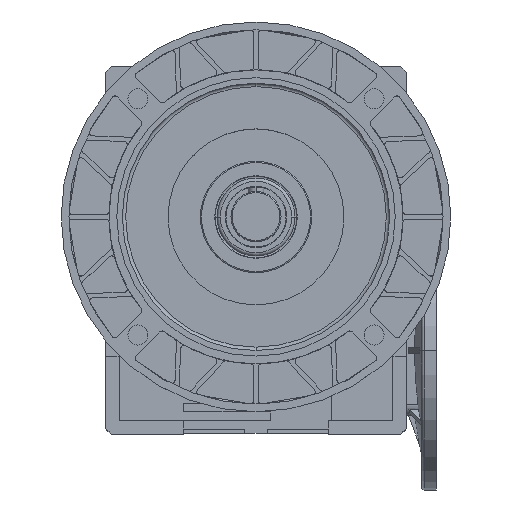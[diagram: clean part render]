
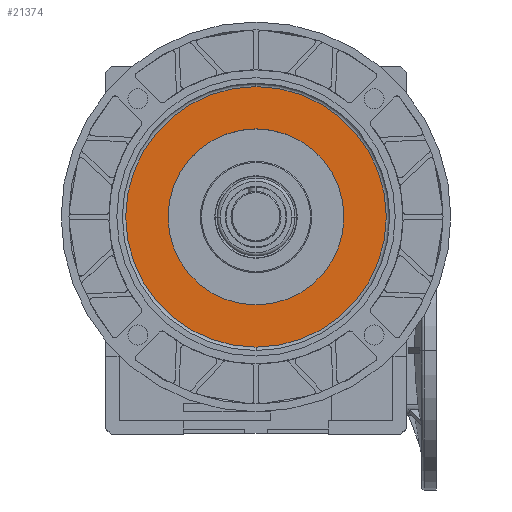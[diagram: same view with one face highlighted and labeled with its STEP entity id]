
A CAD part, top view. The second image highlights one B-rep face of the part: STEP entity #21374.
In plain terms, the highlighted planar face has unit normal (0, 0, 1).
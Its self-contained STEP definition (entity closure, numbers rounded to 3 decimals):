
#18938 = VERTEX_POINT ( 'NONE', #47294 ) ;
#18946 = VERTEX_POINT ( 'NONE', #47338 ) ;
#18950 = EDGE_CURVE ( 'NONE', #18946, #18951, #47336, .T. ) ;
#18951 = VERTEX_POINT ( 'NONE', #47325 ) ;
#18968 = EDGE_CURVE ( 'NONE', #18938, #18970, #47351, .T. ) ;
#18970 = VERTEX_POINT ( 'NONE', #47393 ) ;
#21373 = EDGE_CURVE ( 'NONE', #18951, #18946, #37686, .T. ) ;
#21374 = ADVANCED_FACE ( 'NONE', ( #37743, #37742 ), #37741, .T. ) ;
#21375 = EDGE_LOOP ( 'NONE', ( #21376, #21378 ) ) ;
#21376 = ORIENTED_EDGE ( 'NONE', *, *, #21377, .T. ) ;
#21377 = EDGE_CURVE ( 'NONE', #18970, #18938, #37735, .T. ) ;
#21378 = ORIENTED_EDGE ( 'NONE', *, *, #18968, .T. ) ;
#21379 = EDGE_LOOP ( 'NONE', ( #21380, #21381 ) ) ;
#21380 = ORIENTED_EDGE ( 'NONE', *, *, #21373, .F. ) ;
#21381 = ORIENTED_EDGE ( 'NONE', *, *, #18950, .F. ) ;
#37685 = CARTESIAN_POINT ( 'NONE',  ( -13.506, 0., 150. ) ) ;
#37686 = CIRCLE ( 'NONE', #37746, 117. ) ;
#37732 = DIRECTION ( 'NONE',  ( 0., 1., 0. ) ) ;
#37733 = DIRECTION ( 'NONE',  ( 0., 0., -1. ) ) ;
#37734 = AXIS2_PLACEMENT_3D ( 'NONE', #37739, #37733, #37732 ) ;
#37735 = CIRCLE ( 'NONE', #37734, 79. ) ;
#37736 = DIRECTION ( 'NONE',  ( 0., -1., 0. ) ) ;
#37737 = DIRECTION ( 'NONE',  ( 0., 0., 1. ) ) ;
#37738 = CARTESIAN_POINT ( 'NONE',  ( -13.506, 117., 150. ) ) ;
#37739 = CARTESIAN_POINT ( 'NONE',  ( -13.506, 0., 150. ) ) ;
#37740 = AXIS2_PLACEMENT_3D ( 'NONE', #37738, #37737, #37736 ) ;
#37741 = PLANE ( 'NONE',  #37740 ) ;
#37742 = FACE_OUTER_BOUND ( 'NONE', #21379, .T. ) ;
#37743 = FACE_BOUND ( 'NONE', #21375, .T. ) ;
#37744 = DIRECTION ( 'NONE',  ( 0., 1., 0. ) ) ;
#37745 = DIRECTION ( 'NONE',  ( 0., 0., -1. ) ) ;
#37746 = AXIS2_PLACEMENT_3D ( 'NONE', #37685, #37745, #37744 ) ;
#47294 = CARTESIAN_POINT ( 'NONE',  ( -13.506, -79., 150. ) ) ;
#47325 = CARTESIAN_POINT ( 'NONE',  ( -13.506, 117., 150. ) ) ;
#47326 = DIRECTION ( 'NONE',  ( 0., 1., 0. ) ) ;
#47327 = DIRECTION ( 'NONE',  ( 0., 0., -1. ) ) ;
#47328 = CARTESIAN_POINT ( 'NONE',  ( -13.506, 0., 150. ) ) ;
#47329 = AXIS2_PLACEMENT_3D ( 'NONE', #47328, #47327, #47326 ) ;
#47336 = CIRCLE ( 'NONE', #47329, 117. ) ;
#47338 = CARTESIAN_POINT ( 'NONE',  ( -13.506, -117., 150. ) ) ;
#47349 = DIRECTION ( 'NONE',  ( 0., 0., -1. ) ) ;
#47350 = AXIS2_PLACEMENT_3D ( 'NONE', #47352, #47349, #47394 ) ;
#47351 = CIRCLE ( 'NONE', #47350, 79. ) ;
#47352 = CARTESIAN_POINT ( 'NONE',  ( -13.506, 0., 150. ) ) ;
#47393 = CARTESIAN_POINT ( 'NONE',  ( -13.506, 79., 150. ) ) ;
#47394 = DIRECTION ( 'NONE',  ( 0., 1., 0. ) ) ;
